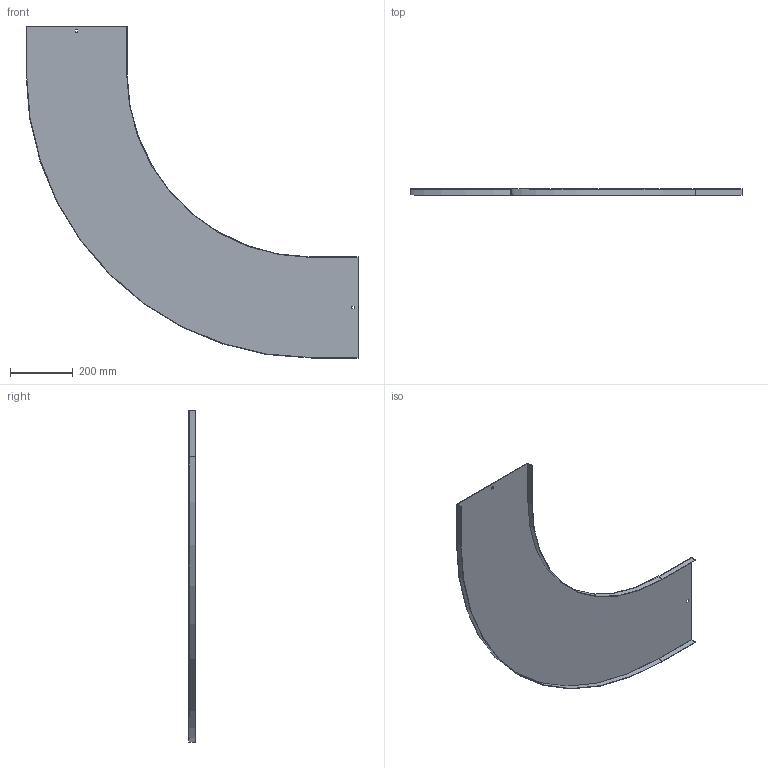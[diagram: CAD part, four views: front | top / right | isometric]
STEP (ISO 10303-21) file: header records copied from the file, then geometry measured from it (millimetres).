
FILE_DESCRIPTION (( 'STEP AP214' ), '1' );
FILE_NAME ('10N6P300.step', '2025-02-21T13:37:08', ( '' ), ( '' ), 'SwSTEP 2.0', 'SolidWorks 2023', '' );
FILE_SCHEMA (( 'AUTOMOTIVE_DESIGN' ));
Length unit declared in the file: millimetre
Products named in the file (1): 10N6P300
Bounding box: 1061.5 x 20 x 1061.5 mm (x, y, z)
Volume: 797997 mm3; surface area: 1069603.3 mm2
Topology: 1 solids, 1 shells, 26 faces, 72 edges, 48 vertices
Faces by surface type: plane 22, cylinder 4
Entity records: 855 total; most frequent: CARTESIAN_POINT 147, ORIENTED_EDGE 144, DIRECTION 134, EDGE_CURVE 72, LINE 64, VECTOR 64, VERTEX_POINT 48, AXIS2_PLACEMENT_3D 35
